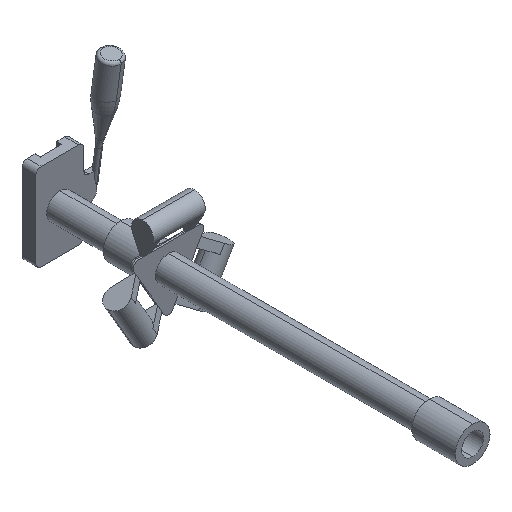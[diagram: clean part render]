
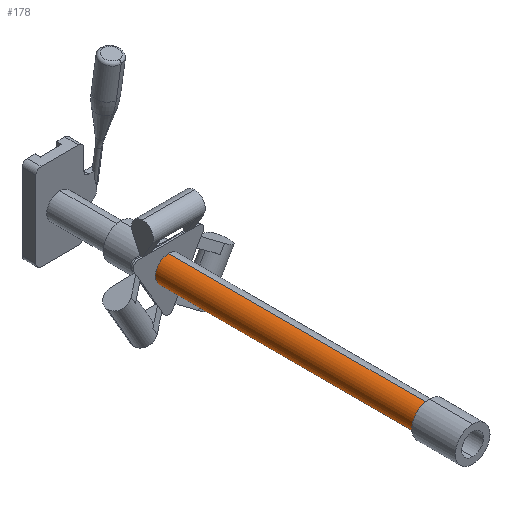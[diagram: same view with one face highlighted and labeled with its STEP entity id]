
A CAD part, isometric view. The second image highlights one B-rep face of the part: STEP entity #178.
In plain terms, the highlighted cylindrical face has radius 15 mm (diameter 30 mm), a partial arc.
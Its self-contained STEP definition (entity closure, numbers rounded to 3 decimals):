
#178 = ADVANCED_FACE ( 'Face6', ( #2872 ), #2113, .T. ) ;
#183 = CARTESIAN_POINT ( 'NONE',  ( 0., 350., -15. ) ) ;
#270 = EDGE_CURVE ( 'NONE', #3412, #1173, #3254, .T. ) ;
#280 = DIRECTION ( 'NONE',  ( 0., -1., 0. ) ) ;
#410 = DIRECTION ( 'NONE',  ( 0., 0., -1. ) ) ;
#418 = CARTESIAN_POINT ( 'NONE',  ( 0., 350., 0. ) ) ;
#420 = AXIS2_PLACEMENT_3D ( 'NONE', #1419, #1784, #1421 ) ;
#423 = DIRECTION ( 'NONE',  ( 0., -1., 0. ) ) ;
#587 = VERTEX_POINT ( 'NONE', #2151 ) ;
#764 = ORIENTED_EDGE ( 'NONE', *, *, #270, .T. ) ;
#1135 = CARTESIAN_POINT ( 'NONE',  ( 0., 350., 15. ) ) ;
#1172 = EDGE_LOOP ( 'NONE', ( #1404, #1960, #2435, #764 ) ) ;
#1173 = VERTEX_POINT ( 'NONE', #3508 ) ;
#1371 = LINE ( 'NONE', #1556, #3451 ) ;
#1401 = CARTESIAN_POINT ( 'NONE',  ( 0., 350., 0. ) ) ;
#1404 = ORIENTED_EDGE ( 'NONE', *, *, #2703, .F. ) ;
#1412 = DIRECTION ( 'NONE',  ( 0., 1., 0. ) ) ;
#1418 = DIRECTION ( 'NONE',  ( 0., 0., 1. ) ) ;
#1419 = CARTESIAN_POINT ( 'NONE',  ( 0., 50., 0. ) ) ;
#1421 = DIRECTION ( 'NONE',  ( 0., 0., 1. ) ) ;
#1486 = DIRECTION ( 'NONE',  ( 0., -1., 0. ) ) ;
#1556 = CARTESIAN_POINT ( 'NONE',  ( 0., 350., 15. ) ) ;
#1592 = EDGE_CURVE ( 'NONE', #587, #3412, #1970, .T. ) ;
#1760 = AXIS2_PLACEMENT_3D ( 'NONE', #1401, #1412, #1418 ) ;
#1784 = DIRECTION ( 'NONE',  ( 0., 1., 0. ) ) ;
#1960 = ORIENTED_EDGE ( 'NONE', *, *, #2055, .F. ) ;
#1970 = LINE ( 'NONE', #183, #3253 ) ;
#2055 = EDGE_CURVE ( 'NONE', #587, #2511, #3400, .T. ) ;
#2113 = CYLINDRICAL_SURFACE ( 'NONE', #2818, 15. ) ;
#2151 = CARTESIAN_POINT ( 'NONE',  ( 0., 350., -15. ) ) ;
#2435 = ORIENTED_EDGE ( 'NONE', *, *, #1592, .T. ) ;
#2511 = VERTEX_POINT ( 'NONE', #1135 ) ;
#2558 = CARTESIAN_POINT ( 'NONE',  ( 0., 50., -15. ) ) ;
#2703 = EDGE_CURVE ( 'NONE', #2511, #1173, #1371, .T. ) ;
#2818 = AXIS2_PLACEMENT_3D ( 'NONE', #418, #423, #410 ) ;
#2872 = FACE_OUTER_BOUND ( 'NONE', #1172, .T. ) ;
#3253 = VECTOR ( 'NONE', #280, 1000. ) ;
#3254 = CIRCLE ( 'NONE', #420, 15. ) ;
#3400 = CIRCLE ( 'NONE', #1760, 15. ) ;
#3412 = VERTEX_POINT ( 'NONE', #2558 ) ;
#3451 = VECTOR ( 'NONE', #1486, 1000. ) ;
#3508 = CARTESIAN_POINT ( 'NONE',  ( 0., 50., 15. ) ) ;
